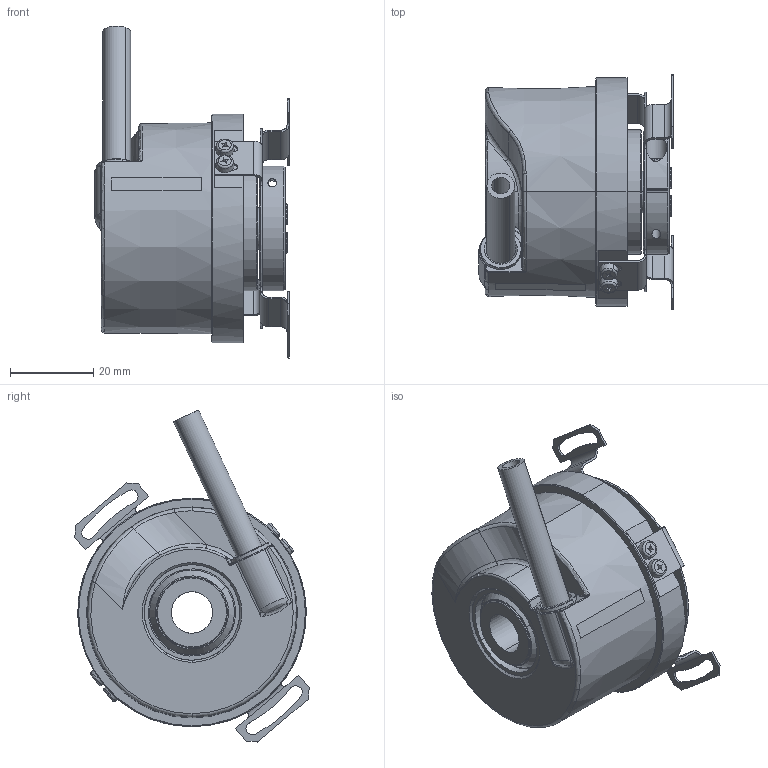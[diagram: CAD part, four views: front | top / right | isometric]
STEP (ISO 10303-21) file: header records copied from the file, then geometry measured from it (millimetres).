
FILE_DESCRIPTION (( 'STEP AP214' ), '1' );
FILE_NAME ('8.5020.D3XE.XXXX.STEP', '2011-01-10T10:39:41', ( 'admin' ), ( 'Fritz Kübler GmbH' ), 'SwSTEP 2.0', 'SolidWorks 2009', '' );
FILE_SCHEMA (( 'AUTOMOTIVE_DESIGN' ));
Length unit declared in the file: millimetre
Products named in the file (1): 8.5020.D3XE.XXXX
Bounding box: 46.8 x 56.46 x 79.93 mm (x, y, z)
Surface area: 20480.1 mm2 (no closed solid volume)
Topology: 0 solids, 16 shells, 300 faces, 878 edges, 569 vertices
Faces by surface type: plane 120, cylinder 102, cone 36, torus 26, bspline 16
Entity records: 15807 total; most frequent: CARTESIAN_POINT 4584, DIRECTION 1710, ORIENTED_EDGE 1498, EDGE_CURVE 873, AXIS2_PLACEMENT_3D 638, VERTEX_POINT 569, VECTOR 434, LINE 434
